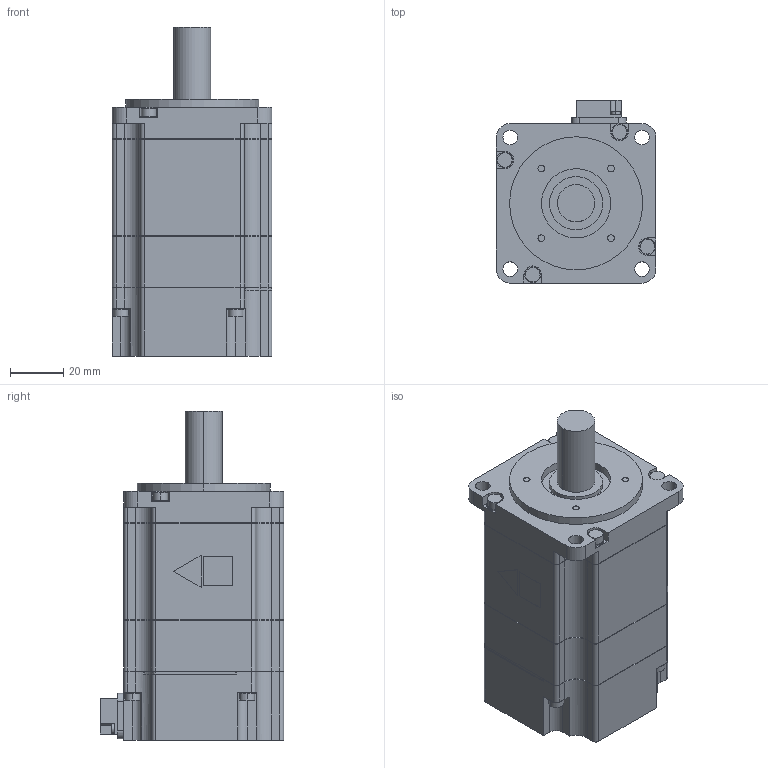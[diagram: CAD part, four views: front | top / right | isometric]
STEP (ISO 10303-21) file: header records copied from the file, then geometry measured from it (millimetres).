
FILE_DESCRIPTION (( 'STEP AP203' ), '1' );
FILE_NAME ('sgm7j_04a6a21.STEP', '2016-11-12T04:56:31', ( '匠エンジニアリング山之内' ), ( 'TAKUMI-Engniaring' ), 'SwSTEP 2.0', 'SolidWorks 2006303', '' );
FILE_SCHEMA (( 'CONFIG_CONTROL_DESIGN' ));
Length unit declared in the file: millimetre
Products named in the file (1): sgm7j_04a6a21
Bounding box: 60.1 x 68.8 x 123.6 mm (x, y, z)
Volume: 306472.1 mm3; surface area: 33799.1 mm2
Topology: 1 solids, 1 shells, 415 faces, 1090 edges, 724 vertices
Faces by surface type: plane 230, cylinder 185
Entity records: 12983 total; most frequent: DIRECTION 2300, CARTESIAN_POINT 2244, ORIENTED_EDGE 2180, EDGE_CURVE 1090, AXIS2_PLACEMENT_3D 796, VERTEX_POINT 724, VECTOR 708, LINE 708
